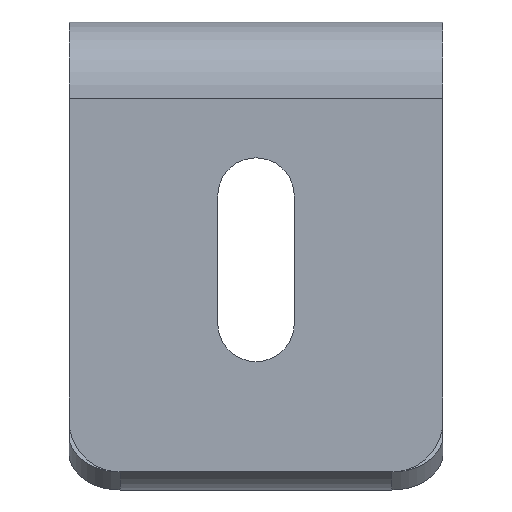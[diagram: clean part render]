
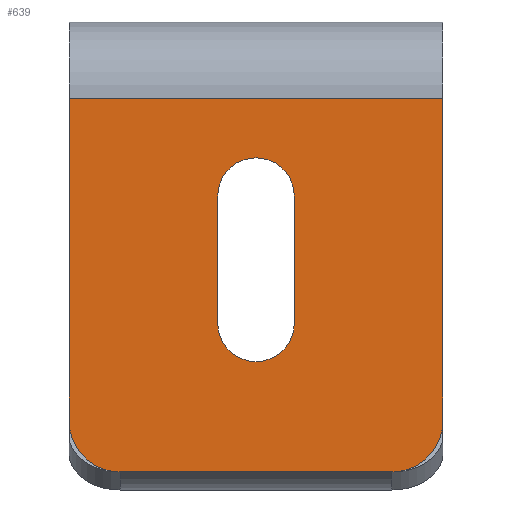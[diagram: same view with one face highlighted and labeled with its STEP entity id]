
A CAD part, front view. The second image highlights one B-rep face of the part: STEP entity #639.
In plain terms, the highlighted planar face has unit normal (0, -1, 0).
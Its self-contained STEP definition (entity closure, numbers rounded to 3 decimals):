
#11 = LINE ( 'NONE', #742, #1274 ) ;
#25 = DIRECTION ( 'NONE',  ( 0., 1., 0. ) ) ;
#96 = CARTESIAN_POINT ( 'NONE',  ( 16., -3., -44. ) ) ;
#103 = LINE ( 'NONE', #820, #1544 ) ;
#132 = AXIS2_PLACEMENT_3D ( 'NONE', #732, #25, #1215 ) ;
#138 = VECTOR ( 'NONE', #1011, 1000. ) ;
#158 = CARTESIAN_POINT ( 'NONE',  ( 22., -3., -6. ) ) ;
#190 = EDGE_CURVE ( 'NONE', #353, #1078, #11, .T. ) ;
#201 = CARTESIAN_POINT ( 'NONE',  ( 22., -3., -50. ) ) ;
#203 = LINE ( 'NONE', #1154, #616 ) ;
#204 = ORIENTED_EDGE ( 'NONE', *, *, #1276, .T. ) ;
#214 = CARTESIAN_POINT ( 'NONE',  ( 4.5, -3., -32.5 ) ) ;
#263 = FACE_OUTER_BOUND ( 'NONE', #282, .T. ) ;
#282 = EDGE_LOOP ( 'NONE', ( #511, #1438, #389, #905, #730, #1537 ) ) ;
#302 = VERTEX_POINT ( 'NONE', #879 ) ;
#304 = DIRECTION ( 'NONE',  ( 0., 1., 0. ) ) ;
#312 = CARTESIAN_POINT ( 'NONE',  ( 16., -3., -50. ) ) ;
#353 = VERTEX_POINT ( 'NONE', #158 ) ;
#366 = CARTESIAN_POINT ( 'NONE',  ( 0., -3., -13. ) ) ;
#367 = ORIENTED_EDGE ( 'NONE', *, *, #451, .T. ) ;
#389 = ORIENTED_EDGE ( 'NONE', *, *, #190, .F. ) ;
#398 = VERTEX_POINT ( 'NONE', #858 ) ;
#430 = VERTEX_POINT ( 'NONE', #366 ) ;
#445 = EDGE_CURVE ( 'NONE', #1080, #302, #1020, .T. ) ;
#450 = DIRECTION ( 'NONE',  ( 0., 1., 0. ) ) ;
#451 = EDGE_CURVE ( 'NONE', #430, #520, #813, .T. ) ;
#457 = CIRCLE ( 'NONE', #937, 4.5 ) ;
#459 = CARTESIAN_POINT ( 'NONE',  ( -22., -3., -44. ) ) ;
#482 = DIRECTION ( 'NONE',  ( 0., -1., 0. ) ) ;
#491 = DIRECTION ( 'NONE',  ( 0., -1., 0. ) ) ;
#501 = CARTESIAN_POINT ( 'NONE',  ( -4.5, -3., -32.5 ) ) ;
#511 = ORIENTED_EDGE ( 'NONE', *, *, #1012, .F. ) ;
#520 = VERTEX_POINT ( 'NONE', #1188 ) ;
#541 = PLANE ( 'NONE',  #1369 ) ;
#542 = AXIS2_PLACEMENT_3D ( 'NONE', #577, #450, #1531 ) ;
#574 = DIRECTION ( 'NONE',  ( -1., 0., 0. ) ) ;
#576 = DIRECTION ( 'NONE',  ( 0., 0., 1. ) ) ;
#577 = CARTESIAN_POINT ( 'NONE',  ( 0., -3., -17.5 ) ) ;
#608 = CARTESIAN_POINT ( 'NONE',  ( -16., -3., -44. ) ) ;
#612 = AXIS2_PLACEMENT_3D ( 'NONE', #608, #482, #1555 ) ;
#616 = VECTOR ( 'NONE', #574, 1000. ) ;
#619 = VECTOR ( 'NONE', #1019, 1000. ) ;
#639 = ADVANCED_FACE ( 'NONE', ( #1131, #263 ), #541, .F. ) ;
#667 = CARTESIAN_POINT ( 'NONE',  ( -22., -3., -6. ) ) ;
#682 = EDGE_CURVE ( 'NONE', #353, #1547, #203, .T. ) ;
#702 = DIRECTION ( 'NONE',  ( -1., 0., 0. ) ) ;
#711 = EDGE_LOOP ( 'NONE', ( #204, #1070, #1206, #1252, #367 ) ) ;
#717 = AXIS2_PLACEMENT_3D ( 'NONE', #96, #491, #576 ) ;
#730 = ORIENTED_EDGE ( 'NONE', *, *, #946, .T. ) ;
#732 = CARTESIAN_POINT ( 'NONE',  ( 0., -3., -17.5 ) ) ;
#742 = CARTESIAN_POINT ( 'NONE',  ( 22., -3., 0. ) ) ;
#758 = DIRECTION ( 'NONE',  ( 0., 0., 1. ) ) ;
#768 = LINE ( 'NONE', #1128, #138 ) ;
#772 = DIRECTION ( 'NONE',  ( 0., 0., 1. ) ) ;
#813 = CIRCLE ( 'NONE', #132, 4.5 ) ;
#814 = VECTOR ( 'NONE', #702, 1000. ) ;
#820 = CARTESIAN_POINT ( 'NONE',  ( -22., -3., 0. ) ) ;
#833 = DIRECTION ( 'NONE',  ( 0., 0., -1. ) ) ;
#858 = CARTESIAN_POINT ( 'NONE',  ( -4.5, -3., -17.5 ) ) ;
#879 = CARTESIAN_POINT ( 'NONE',  ( -16., -3., -50. ) ) ;
#887 = LINE ( 'NONE', #1134, #619 ) ;
#904 = EDGE_CURVE ( 'NONE', #1400, #1443, #457, .T. ) ;
#905 = ORIENTED_EDGE ( 'NONE', *, *, #682, .T. ) ;
#937 = AXIS2_PLACEMENT_3D ( 'NONE', #1031, #304, #772 ) ;
#945 = VERTEX_POINT ( 'NONE', #312 ) ;
#946 = EDGE_CURVE ( 'NONE', #1547, #1080, #103, .T. ) ;
#1011 = DIRECTION ( 'NONE',  ( 0., 0., 1. ) ) ;
#1012 = EDGE_CURVE ( 'NONE', #945, #302, #1076, .T. ) ;
#1019 = DIRECTION ( 'NONE',  ( 0., 0., -1. ) ) ;
#1020 = CIRCLE ( 'NONE', #612, 6. ) ;
#1031 = CARTESIAN_POINT ( 'NONE',  ( 0., -3., -32.5 ) ) ;
#1053 = EDGE_CURVE ( 'NONE', #398, #430, #1372, .T. ) ;
#1070 = ORIENTED_EDGE ( 'NONE', *, *, #904, .T. ) ;
#1076 = LINE ( 'NONE', #201, #814 ) ;
#1078 = VERTEX_POINT ( 'NONE', #1543 ) ;
#1080 = VERTEX_POINT ( 'NONE', #459 ) ;
#1123 = DIRECTION ( 'NONE',  ( 0., 1., 0. ) ) ;
#1128 = CARTESIAN_POINT ( 'NONE',  ( -4.5, -3., -32.5 ) ) ;
#1131 = FACE_BOUND ( 'NONE', #711, .T. ) ;
#1134 = CARTESIAN_POINT ( 'NONE',  ( 4.5, -3., -32.5 ) ) ;
#1154 = CARTESIAN_POINT ( 'NONE',  ( 22., -3., -6. ) ) ;
#1188 = CARTESIAN_POINT ( 'NONE',  ( 4.5, -3., -17.5 ) ) ;
#1206 = ORIENTED_EDGE ( 'NONE', *, *, #1290, .T. ) ;
#1215 = DIRECTION ( 'NONE',  ( 0., 0., 1. ) ) ;
#1219 = DIRECTION ( 'NONE',  ( 0., 0., -1. ) ) ;
#1252 = ORIENTED_EDGE ( 'NONE', *, *, #1053, .T. ) ;
#1274 = VECTOR ( 'NONE', #1219, 1000. ) ;
#1276 = EDGE_CURVE ( 'NONE', #520, #1400, #887, .T. ) ;
#1290 = EDGE_CURVE ( 'NONE', #1443, #398, #768, .T. ) ;
#1369 = AXIS2_PLACEMENT_3D ( 'NONE', #1510, #1123, #758 ) ;
#1372 = CIRCLE ( 'NONE', #542, 4.5 ) ;
#1390 = EDGE_CURVE ( 'NONE', #945, #1078, #1395, .T. ) ;
#1395 = CIRCLE ( 'NONE', #717, 6. ) ;
#1400 = VERTEX_POINT ( 'NONE', #214 ) ;
#1438 = ORIENTED_EDGE ( 'NONE', *, *, #1390, .T. ) ;
#1443 = VERTEX_POINT ( 'NONE', #501 ) ;
#1510 = CARTESIAN_POINT ( 'NONE',  ( 22., -3., 0. ) ) ;
#1531 = DIRECTION ( 'NONE',  ( 0., 0., 1. ) ) ;
#1537 = ORIENTED_EDGE ( 'NONE', *, *, #445, .T. ) ;
#1543 = CARTESIAN_POINT ( 'NONE',  ( 22., -3., -44. ) ) ;
#1544 = VECTOR ( 'NONE', #833, 1000. ) ;
#1547 = VERTEX_POINT ( 'NONE', #667 ) ;
#1555 = DIRECTION ( 'NONE',  ( 0., 0., 1. ) ) ;
